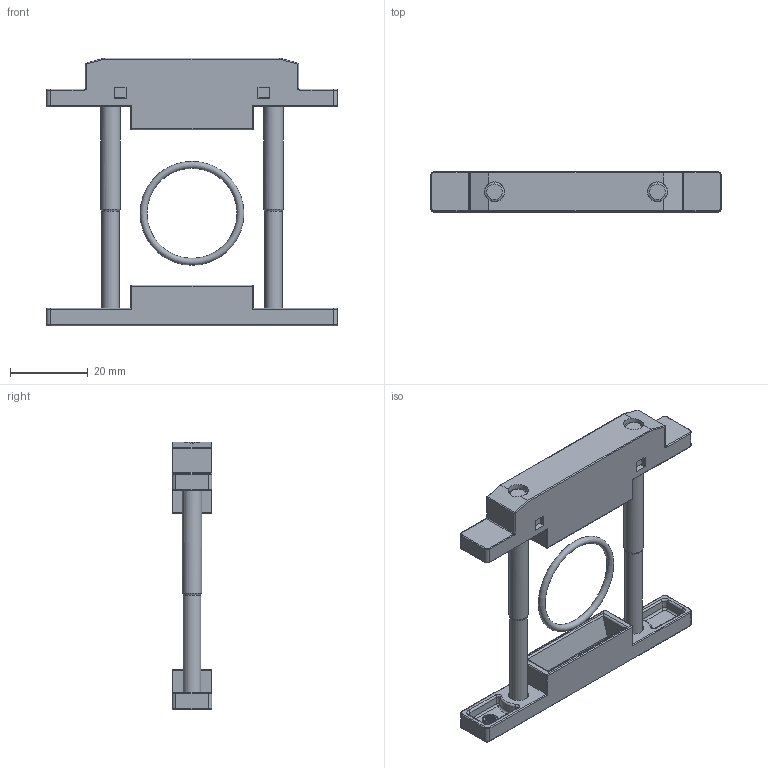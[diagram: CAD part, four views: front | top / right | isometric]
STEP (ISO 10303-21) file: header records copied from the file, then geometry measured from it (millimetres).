
FILE_DESCRIPTION((''),'2;1');
FILE_NAME('K:\ZEICHNG\webgrafik.intern\Air-Techniques Befestigungen und Behälter\step\KKOP.4.stp','2013-06-21T09:24:50',('RJanz'),(''),'Autodesk Inventor 2013','Autodesk Inventor 2013','');
FILE_SCHEMA(('CONFIG_CONTROL_DESIGN'));
Length unit declared in the file: millimetre
Products named in the file (1): Bauteil1
Bounding box: 75 x 10.3 x 69 mm (x, y, z)
Volume: 12476.7 mm3; surface area: 12014.8 mm2
Topology: 3 solids, 3 shells, 1144 faces, 2953 edges, 1879 vertices
Faces by surface type: plane 452, bspline 374, cylinder 205, torus 63, cone 28, sphere 22
Full cylindrical faces by diameter (mm): 0.2 x6, 4 x2, 4.509 x2, 5 x4, 5.2 x6, 9.3 x2, 9.6 x2
Entity records: 38454 total; most frequent: CARTESIAN_POINT 11987, ORIENTED_EDGE 5774, DIRECTION 4163, EDGE_CURVE 2887, VERTEX_POINT 1871, VECTOR 1585, LINE 1585, AXIS2_PLACEMENT_3D 1289
